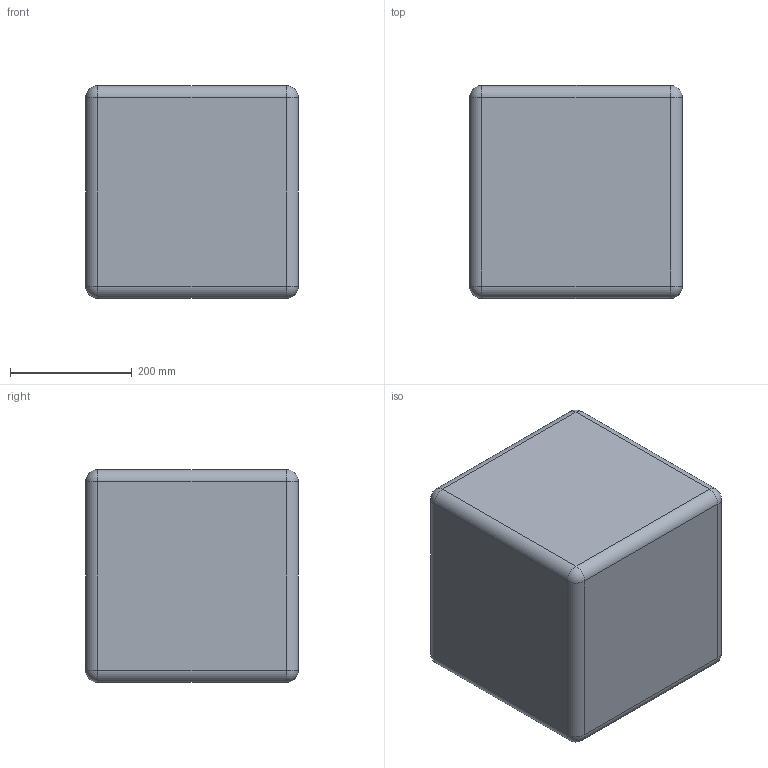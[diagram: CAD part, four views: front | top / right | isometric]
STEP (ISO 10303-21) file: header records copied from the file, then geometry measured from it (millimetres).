
FILE_DESCRIPTION(/* description */ (''),/* implementation_level */ '2;1');
FILE_NAME(/* name */ 'C:/Users/LukasGröber/GMS Cloud/Groeber Mannheim Lichtwerke - Dokumente/Marketing/Produkte/3D Daten/Würfel Sahara/Würfel Sahara 35.step',/* time_stamp */ '2022-07-08T15:14:11+02:00',/* author */ (''),/* organization */ (''),/* preprocessor_version */ 'ST-DEVELOPER v19',/* originating_system */ 'Autodesk Translation Framework v11.7.0.108',/* authorisation */ '');
FILE_SCHEMA (('AUTOMOTIVE_DESIGN { 1 0 10303 214 3 1 1 }'));
Length unit declared in the file: millimetre
Products named in the file (1): Würfel Sahara 35
Bounding box: 350 x 350 x 350 mm (x, y, z)
Volume: 42525182.7 mm3; surface area: 698493.8 mm2
Topology: 1 solids, 1 shells, 26 faces, 48 edges, 24 vertices
Faces by surface type: cylinder 12, sphere 8, plane 6
Entity records: 664 total; most frequent: DIRECTION 126, CARTESIAN_POINT 99, ORIENTED_EDGE 96, AXIS2_PLACEMENT_3D 51, EDGE_CURVE 48, FACE_OUTER_BOUND 26, EDGE_LOOP 26, ADVANCED_FACE 26
